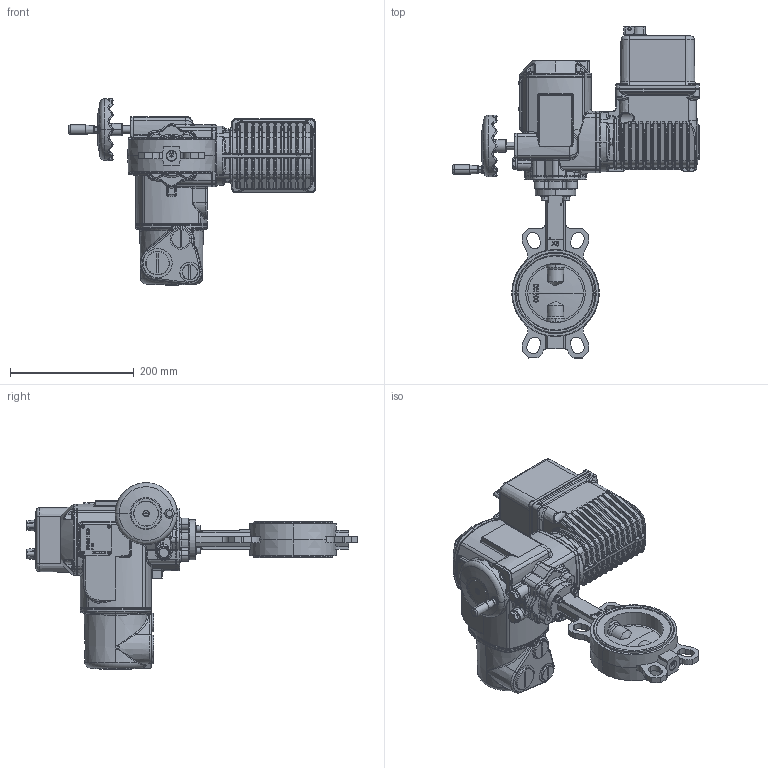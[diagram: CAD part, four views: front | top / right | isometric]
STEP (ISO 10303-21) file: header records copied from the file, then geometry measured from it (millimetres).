
FILE_DESCRIPTION (( 'STEP AP203' ), '1' );
FILE_NAME ('VPI-U24 DN100.step', '2016-09-29T16:20:22', ( 'TECOFI' ), ( '' ), 'SwSTEP 2.0', 'SolidWorks 2014', '' );
FILE_SCHEMA (( 'CONFIG_CONTROL_DESIGN' ));
Products named in the file (1): VPI-U24 DN100
Bounding box: 398.75 x 536.55 x 301.64 mm (x, y, z)
Volume: 7583724.7 mm3; surface area: 639584 mm2
Topology: 47 solids, 48 shells, 4236 faces, 10296 edges, 6134 vertices
Faces by surface type: bspline 1323, plane 1004, cylinder 945, cone 466, torus 457, sphere 41
Entity records: 188971 total; most frequent: CARTESIAN_POINT 100265, ORIENTED_EDGE 20286, DIRECTION 15988, EDGE_CURVE 10143, AXIS2_PLACEMENT_3D 6234, VERTEX_POINT 6134, EDGE_LOOP 4415, FACE_OUTER_BOUND 4236
